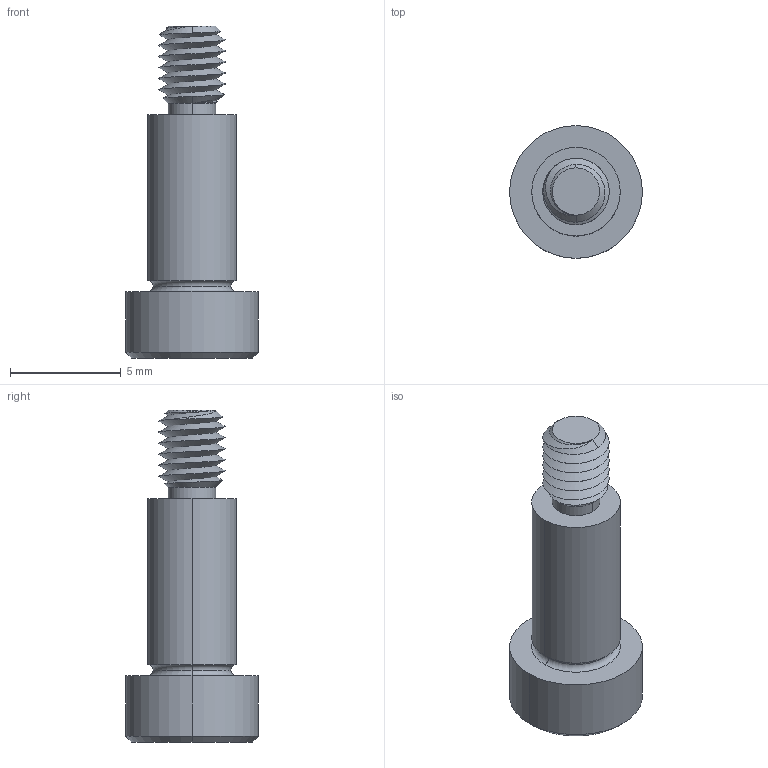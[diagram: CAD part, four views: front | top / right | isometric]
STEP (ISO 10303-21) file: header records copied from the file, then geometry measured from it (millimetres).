
FILE_DESCRIPTION (( 'STEP AP203' ), '1' );
FILE_NAME ('P0130.040-008-B2.step', '2021-11-09T21:02:45', ( '' ), ( '' ), 'SwSTEP 2.0', 'SolidWorks 2019', '' );
FILE_SCHEMA (( 'CONFIG_CONTROL_DESIGN' ));
Length unit declared in the file: millimetre
Products named in the file (1): P0130.040-008-B2
Bounding box: 6 x 6 x 15 mm (x, y, z)
Volume: 195.7 mm3; surface area: 284.9 mm2
Topology: 1 solids, 1 shells, 54 faces, 124 edges, 73 vertices
Faces by surface type: cylinder 18, plane 16, cone 14, torus 4, bspline 2
Entity records: 2218 total; most frequent: CARTESIAN_POINT 1016, ORIENTED_EDGE 244, DIRECTION 229, EDGE_CURVE 122, AXIS2_PLACEMENT_3D 93, VERTEX_POINT 73, EDGE_LOOP 57, FACE_OUTER_BOUND 54
